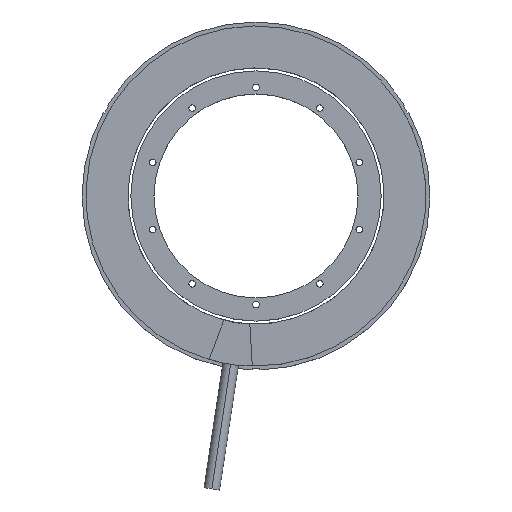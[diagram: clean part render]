
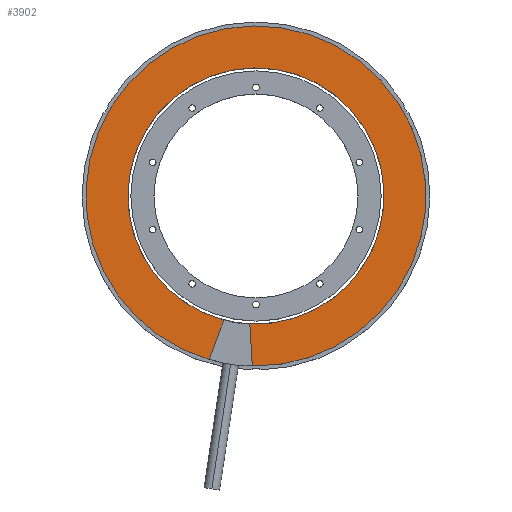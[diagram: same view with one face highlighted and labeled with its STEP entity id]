
A CAD part, top view. The second image highlights one B-rep face of the part: STEP entity #3902.
In plain terms, the highlighted planar face has unit normal (0, 0, 1).
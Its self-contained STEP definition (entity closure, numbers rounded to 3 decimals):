
#101 = EDGE_CURVE ( 'NONE', #3119, #1481, #1695, .T. ) ;
#125 = CARTESIAN_POINT ( 'NONE',  ( 1.725, -0.291, 97.277 ) ) ;
#224 = VERTEX_POINT ( 'NONE', #2499 ) ;
#344 = ORIENTED_EDGE ( 'NONE', *, *, #526, .T. ) ;
#403 = DIRECTION ( 'NONE',  ( -0.15, -0.989, 0. ) ) ;
#413 = CIRCLE ( 'NONE', #2136, 48.95 ) ;
#526 = EDGE_CURVE ( 'NONE', #1122, #1482, #4060, .T. ) ;
#618 = VECTOR ( 'NONE', #4382, 1000. ) ;
#628 = VERTEX_POINT ( 'NONE', #1355 ) ;
#697 = ORIENTED_EDGE ( 'NONE', *, *, #3462, .F. ) ;
#763 = EDGE_CURVE ( 'NONE', #1482, #1481, #856, .T. ) ;
#769 = VECTOR ( 'NONE', #2264, 1000. ) ;
#782 = ORIENTED_EDGE ( 'NONE', *, *, #101, .F. ) ;
#856 = CIRCLE ( 'NONE', #2330, 65. ) ;
#870 = DIRECTION ( 'NONE',  ( 0., 0., 1. ) ) ;
#1058 = CARTESIAN_POINT ( 'NONE',  ( 23.741, 111.363, 97.277 ) ) ;
#1122 = VERTEX_POINT ( 'NONE', #2198 ) ;
#1142 = FACE_OUTER_BOUND ( 'NONE', #4838, .T. ) ;
#1248 = DIRECTION ( 'NONE',  ( -0.15, -0.989, 0. ) ) ;
#1313 = AXIS2_PLACEMENT_3D ( 'NONE', #1519, #3071, #4259 ) ;
#1355 = CARTESIAN_POINT ( 'NONE',  ( 21.331, 95.495, 97.277 ) ) ;
#1479 = CARTESIAN_POINT ( 'NONE',  ( 13.981, 47.1, 97.277 ) ) ;
#1481 = VERTEX_POINT ( 'NONE', #4562 ) ;
#1482 = VERTEX_POINT ( 'NONE', #1058 ) ;
#1519 = CARTESIAN_POINT ( 'NONE',  ( 13.981, 47.1, 97.277 ) ) ;
#1554 = CARTESIAN_POINT ( 'NONE',  ( 13.981, 47.1, 97.277 ) ) ;
#1555 = EDGE_CURVE ( 'NONE', #1122, #224, #4665, .T. ) ;
#1624 = CARTESIAN_POINT ( 'NONE',  ( 13.981, 47.1, 97.277 ) ) ;
#1695 = LINE ( 'NONE', #125, #618 ) ;
#1851 = AXIS2_PLACEMENT_3D ( 'NONE', #2075, #870, #2437 ) ;
#1901 = ORIENTED_EDGE ( 'NONE', *, *, #763, .T. ) ;
#2037 = PLANE ( 'NONE',  #1313 ) ;
#2075 = CARTESIAN_POINT ( 'NONE',  ( 13.981, 47.1, 97.277 ) ) ;
#2136 = AXIS2_PLACEMENT_3D ( 'NONE', #1624, #4754, #1248 ) ;
#2198 = CARTESIAN_POINT ( 'NONE',  ( 12.558, -17.884, 97.277 ) ) ;
#2233 = DIRECTION ( 'NONE',  ( 0., 0., 1. ) ) ;
#2264 = DIRECTION ( 'NONE',  ( -0.059, 0.998, 0. ) ) ;
#2330 = AXIS2_PLACEMENT_3D ( 'NONE', #1479, #2233, #4241 ) ;
#2437 = DIRECTION ( 'NONE',  ( -0.15, -0.989, 0. ) ) ;
#2454 = ORIENTED_EDGE ( 'NONE', *, *, #1555, .F. ) ;
#2499 = CARTESIAN_POINT ( 'NONE',  ( 11.612, -1.793, 97.277 ) ) ;
#3071 = DIRECTION ( 'NONE',  ( 0., 0., 1. ) ) ;
#3119 = VERTEX_POINT ( 'NONE', #3631 ) ;
#3255 = CIRCLE ( 'NONE', #4240, 48.95 ) ;
#3407 = ORIENTED_EDGE ( 'NONE', *, *, #4173, .F. ) ;
#3462 = EDGE_CURVE ( 'NONE', #224, #628, #3255, .T. ) ;
#3631 = CARTESIAN_POINT ( 'NONE',  ( 1.725, -0.291, 97.277 ) ) ;
#3902 = ADVANCED_FACE ( 'NONE', ( #1142 ), #2037, .T. ) ;
#4060 = CIRCLE ( 'NONE', #1851, 65. ) ;
#4173 = EDGE_CURVE ( 'NONE', #628, #3119, #413, .T. ) ;
#4240 = AXIS2_PLACEMENT_3D ( 'NONE', #1554, #4288, #403 ) ;
#4241 = DIRECTION ( 'NONE',  ( -0.15, -0.989, 0. ) ) ;
#4259 = DIRECTION ( 'NONE',  ( -0.15, -0.989, 0. ) ) ;
#4288 = DIRECTION ( 'NONE',  ( 0., 0., 1. ) ) ;
#4382 = DIRECTION ( 'NONE',  ( -0.352, -0.936, 0. ) ) ;
#4562 = CARTESIAN_POINT ( 'NONE',  ( -3.956, -15.376, 97.277 ) ) ;
#4665 = LINE ( 'NONE', #5018, #769 ) ;
#4754 = DIRECTION ( 'NONE',  ( 0., 0., 1. ) ) ;
#4838 = EDGE_LOOP ( 'NONE', ( #2454, #344, #1901, #782, #3407, #697 ) ) ;
#5018 = CARTESIAN_POINT ( 'NONE',  ( 11.612, -1.793, 97.277 ) ) ;
